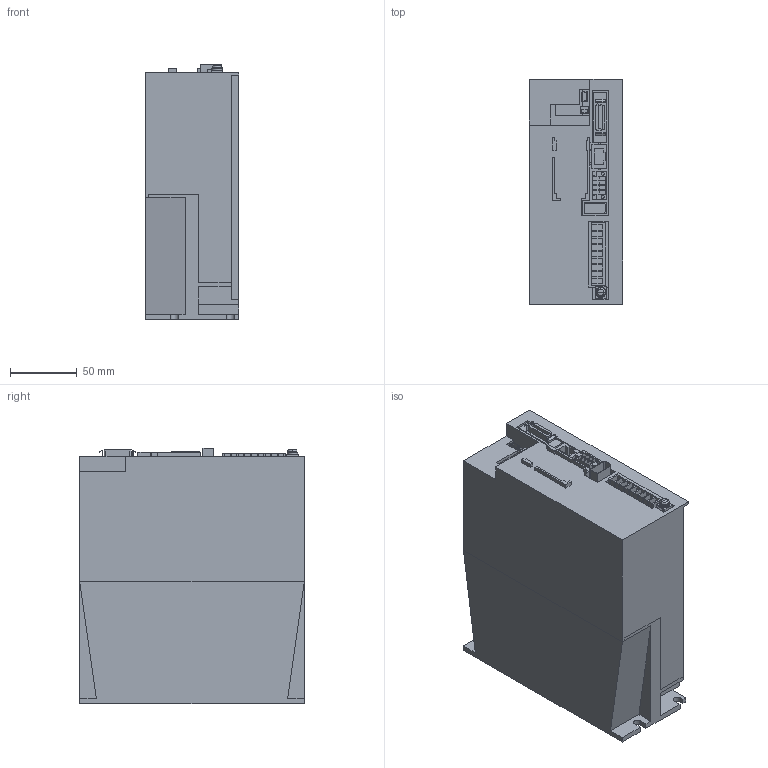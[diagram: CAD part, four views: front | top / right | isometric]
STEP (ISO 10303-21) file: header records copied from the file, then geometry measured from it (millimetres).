
FILE_DESCRIPTION((''),'2;1');
FILE_NAME('MR-JE-70CA_ASM','2017-02-28T',('ES20962'),(''),'PRO/ENGINEER BY PARAMETRIC TECHNOLOGY CORPORATION, 2014310','PRO/ENGINEER BY PARAMETRIC TECHNOLOGY CORPORATION, 2014310','');
FILE_SCHEMA(('CONFIG_CONTROL_DESIGN'));
Length unit declared in the file: millimetre
Products named in the file (12): JE-70C-CHASSIS; JE-70C-CASE; JEC-CN1; JEC-CN3; JEC-CN6; J4A-CN2; JEA-CNP1; JEA-ARTH; SW-PW-P-NA-M4X12-PE; JEC-CN4; JEC-CN5; MR-JE-70CA_ASM
Assembly tree (11 placements, depth 2):
  MR-JE-70CA_ASM
    JE-70C-CHASSIS
    JE-70C-CASE
    JEC-CN1
    JEC-CN3
    JEC-CN6
    J4A-CN2
    JEA-CNP1
    JEA-ARTH
    SW-PW-P-NA-M4X12-PE
    JEC-CN4
    JEC-CN5
Bounding box: 70 x 168 x 191.15 mm (x, y, z)
Volume: 854040 mm3; surface area: 222594.3 mm2
Topology: 11 solids, 11 shells, 423 faces, 1115 edges, 739 vertices
Faces by surface type: plane 371, cylinder 46, cone 2, torus 2, sphere 2
Entity records: 13149 total; most frequent: CARTESIAN_POINT 2298, ORIENTED_EDGE 2226, DIRECTION 2107, EDGE_CURVE 1113, VECTOR 1011, LINE 1011, VERTEX_POINT 739, AXIS2_PLACEMENT_3D 548
